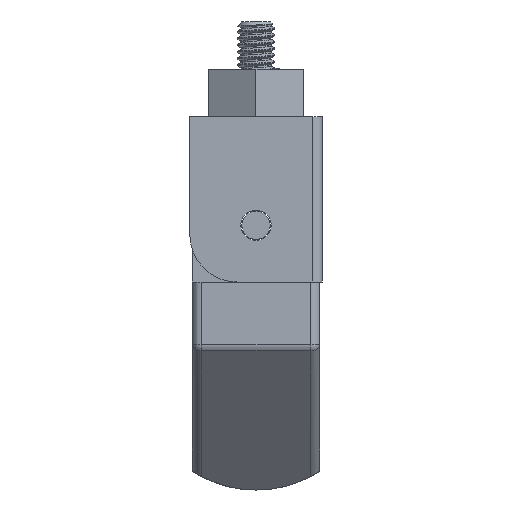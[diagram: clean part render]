
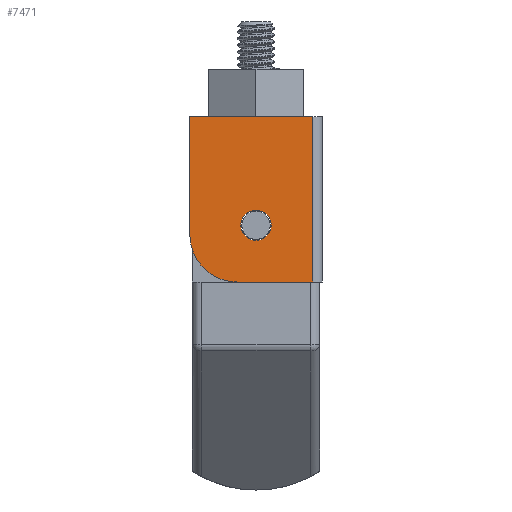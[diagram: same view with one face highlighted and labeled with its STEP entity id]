
A CAD part, left-side view. The second image highlights one B-rep face of the part: STEP entity #7471.
In plain terms, the highlighted planar face has unit normal (-1, 0, 0).
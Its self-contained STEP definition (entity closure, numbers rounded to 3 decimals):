
#103 = CARTESIAN_POINT ( 'NONE',  ( -8.5, -8.75, 7. ) ) ;
#171 = VECTOR ( 'NONE', #6292, 1000. ) ;
#174 = CARTESIAN_POINT ( 'NONE',  ( -8.5, 2.75, 0. ) ) ;
#230 = CARTESIAN_POINT ( 'NONE',  ( -8.5, 2.75, 1.6 ) ) ;
#268 = DIRECTION ( 'NONE',  ( 0., 0., -1. ) ) ;
#321 = CARTESIAN_POINT ( 'NONE',  ( -8.5, -8.75, 7. ) ) ;
#402 = ORIENTED_EDGE ( 'NONE', *, *, #5926, .F. ) ;
#805 = AXIS2_PLACEMENT_3D ( 'NONE', #174, #1993, #7494 ) ;
#1028 = CARTESIAN_POINT ( 'NONE',  ( -8.5, 3.75, 7. ) ) ;
#1437 = CIRCLE ( 'NONE', #805, 1.6 ) ;
#1546 = AXIS2_PLACEMENT_3D ( 'NONE', #7585, #5625, #268 ) ;
#1576 = LINE ( 'NONE', #3378, #4957 ) ;
#1804 = CARTESIAN_POINT ( 'NONE',  ( -8.5, 0., -6. ) ) ;
#1805 = ORIENTED_EDGE ( 'NONE', *, *, #3551, .T. ) ;
#1961 = CARTESIAN_POINT ( 'NONE',  ( -8.5, -8.75, -6. ) ) ;
#1993 = DIRECTION ( 'NONE',  ( 1., 0., 0. ) ) ;
#2153 = PLANE ( 'NONE',  #4173 ) ;
#2232 = VERTEX_POINT ( 'NONE', #5708 ) ;
#2251 = DIRECTION ( 'NONE',  ( 0., 0., 1. ) ) ;
#2392 = LINE ( 'NONE', #1804, #7704 ) ;
#2704 = EDGE_LOOP ( 'NONE', ( #1805, #3153 ) ) ;
#2719 = VERTEX_POINT ( 'NONE', #4320 ) ;
#2821 = DIRECTION ( 'NONE',  ( 1., 0., 0. ) ) ;
#3153 = ORIENTED_EDGE ( 'NONE', *, *, #5272, .T. ) ;
#3242 = EDGE_CURVE ( 'NONE', #2232, #4744, #2392, .T. ) ;
#3336 = DIRECTION ( 'NONE',  ( 0., 0., -1. ) ) ;
#3378 = CARTESIAN_POINT ( 'NONE',  ( -8.5, 8.75, 7. ) ) ;
#3551 = EDGE_CURVE ( 'NONE', #2719, #3561, #4941, .T. ) ;
#3561 = VERTEX_POINT ( 'NONE', #230 ) ;
#3637 = CARTESIAN_POINT ( 'NONE',  ( -8.5, 8.75, 2. ) ) ;
#3811 = CIRCLE ( 'NONE', #4051, 5. ) ;
#3910 = DIRECTION ( 'NONE',  ( 0., 0., -1. ) ) ;
#4011 = CARTESIAN_POINT ( 'NONE',  ( -8.5, 8.75, 7. ) ) ;
#4051 = AXIS2_PLACEMENT_3D ( 'NONE', #6862, #4504, #3910 ) ;
#4097 = ORIENTED_EDGE ( 'NONE', *, *, #3242, .T. ) ;
#4173 = AXIS2_PLACEMENT_3D ( 'NONE', #7507, #2821, #3336 ) ;
#4190 = EDGE_LOOP ( 'NONE', ( #4570, #4097, #402, #5155, #4766 ) ) ;
#4201 = EDGE_CURVE ( 'NONE', #2232, #5218, #7495, .T. ) ;
#4320 = CARTESIAN_POINT ( 'NONE',  ( -8.5, 2.75, -1.6 ) ) ;
#4504 = DIRECTION ( 'NONE',  ( -1., 0., 0. ) ) ;
#4570 = ORIENTED_EDGE ( 'NONE', *, *, #4201, .F. ) ;
#4639 = DIRECTION ( 'NONE',  ( 0., -1., 0. ) ) ;
#4744 = VERTEX_POINT ( 'NONE', #1961 ) ;
#4766 = ORIENTED_EDGE ( 'NONE', *, *, #4870, .T. ) ;
#4831 = DIRECTION ( 'NONE',  ( 0., -1., 0. ) ) ;
#4870 = EDGE_CURVE ( 'NONE', #6920, #5218, #3811, .T. ) ;
#4941 = CIRCLE ( 'NONE', #1546, 1.6 ) ;
#4957 = VECTOR ( 'NONE', #4639, 1000. ) ;
#5155 = ORIENTED_EDGE ( 'NONE', *, *, #6221, .F. ) ;
#5218 = VERTEX_POINT ( 'NONE', #3637 ) ;
#5272 = EDGE_CURVE ( 'NONE', #3561, #2719, #1437, .T. ) ;
#5625 = DIRECTION ( 'NONE',  ( 1., 0., 0. ) ) ;
#5707 = VECTOR ( 'NONE', #2251, 1000. ) ;
#5708 = CARTESIAN_POINT ( 'NONE',  ( -8.5, 8.75, -6. ) ) ;
#5926 = EDGE_CURVE ( 'NONE', #6511, #4744, #6450, .T. ) ;
#6221 = EDGE_CURVE ( 'NONE', #6920, #6511, #1576, .T. ) ;
#6292 = DIRECTION ( 'NONE',  ( 0., 0., -1. ) ) ;
#6450 = LINE ( 'NONE', #321, #171 ) ;
#6511 = VERTEX_POINT ( 'NONE', #103 ) ;
#6862 = CARTESIAN_POINT ( 'NONE',  ( -8.5, 3.75, 2. ) ) ;
#6904 = FACE_OUTER_BOUND ( 'NONE', #4190, .T. ) ;
#6920 = VERTEX_POINT ( 'NONE', #1028 ) ;
#7471 = ADVANCED_FACE ( 'NONE', ( #7579, #6904 ), #2153, .F. ) ;
#7494 = DIRECTION ( 'NONE',  ( 0., 0., -1. ) ) ;
#7495 = LINE ( 'NONE', #4011, #5707 ) ;
#7507 = CARTESIAN_POINT ( 'NONE',  ( -8.5, 0., 0. ) ) ;
#7579 = FACE_BOUND ( 'NONE', #2704, .T. ) ;
#7585 = CARTESIAN_POINT ( 'NONE',  ( -8.5, 2.75, 0. ) ) ;
#7704 = VECTOR ( 'NONE', #4831, 1000. ) ;
